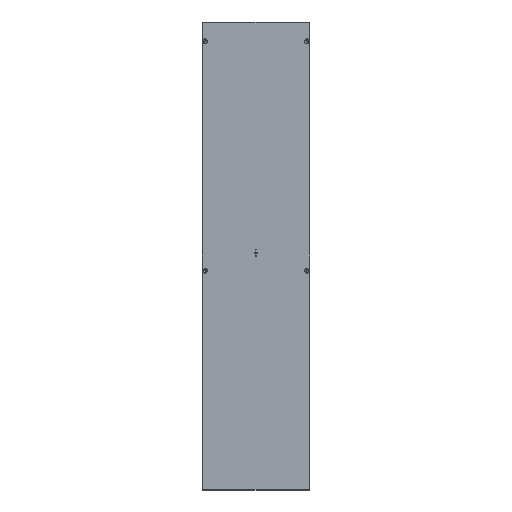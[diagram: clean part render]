
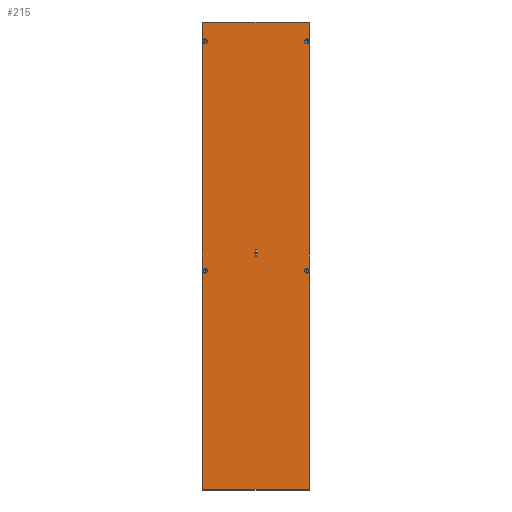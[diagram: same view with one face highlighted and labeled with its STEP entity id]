
A CAD part, front view. The second image highlights one B-rep face of the part: STEP entity #215.
In plain terms, the highlighted planar face has unit normal (0, -1, 0).
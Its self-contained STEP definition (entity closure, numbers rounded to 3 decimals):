
#215 = ADVANCED_FACE( '', ( #356, #357, #358, #359, #360 ), #361, .T. );
#356 = FACE_BOUND( '', #712, .T. );
#357 = FACE_BOUND( '', #713, .T. );
#358 = FACE_OUTER_BOUND( '', #714, .T. );
#359 = FACE_BOUND( '', #715, .T. );
#360 = FACE_BOUND( '', #716, .T. );
#361 = PLANE( '', #717 );
#712 = EDGE_LOOP( '', ( #1078 ) );
#713 = EDGE_LOOP( '', ( #1079 ) );
#714 = EDGE_LOOP( '', ( #1080, #1081, #1082, #1083 ) );
#715 = EDGE_LOOP( '', ( #1084 ) );
#716 = EDGE_LOOP( '', ( #1085 ) );
#717 = AXIS2_PLACEMENT_3D( '', #1086, #1087, #1088 );
#1078 = ORIENTED_EDGE( '', *, *, #1410, .T. );
#1079 = ORIENTED_EDGE( '', *, *, #1411, .T. );
#1080 = ORIENTED_EDGE( '', *, *, #1341, .T. );
#1081 = ORIENTED_EDGE( '', *, *, #1359, .F. );
#1082 = ORIENTED_EDGE( '', *, *, #1376, .F. );
#1083 = ORIENTED_EDGE( '', *, *, #1395, .F. );
#1084 = ORIENTED_EDGE( '', *, *, #1412, .T. );
#1085 = ORIENTED_EDGE( '', *, *, #1413, .T. );
#1086 = CARTESIAN_POINT( '', ( -203.987, 0., -888.206 ) );
#1087 = DIRECTION( '', ( 0., -1., 0. ) );
#1088 = DIRECTION( '', ( 0., 0., -1. ) );
#1341 = EDGE_CURVE( '', #1514, #1512, #1515, .T. );
#1359 = EDGE_CURVE( '', #1541, #1512, #1543, .T. );
#1376 = EDGE_CURVE( '', #1566, #1541, #1568, .T. );
#1395 = EDGE_CURVE( '', #1514, #1566, #1597, .T. );
#1410 = EDGE_CURVE( '', #1619, #1619, #1620, .F. );
#1411 = EDGE_CURVE( '', #1621, #1621, #1622, .F. );
#1412 = EDGE_CURVE( '', #1623, #1623, #1624, .F. );
#1413 = EDGE_CURVE( '', #1625, #1625, #1626, .F. );
#1512 = VERTEX_POINT( '', #1758 );
#1514 = VERTEX_POINT( '', #1769 );
#1515 = LINE( '', #1770, #1771 );
#1541 = VERTEX_POINT( '', #1836 );
#1543 = LINE( '', #1847, #1848 );
#1566 = VERTEX_POINT( '', #1910 );
#1568 = LINE( '', #1921, #1922 );
#1597 = LINE( '', #1998, #1999 );
#1619 = VERTEX_POINT( '', #2059 );
#1620 = CIRCLE( '', #2060, 8.87 );
#1621 = VERTEX_POINT( '', #2061 );
#1622 = CIRCLE( '', #2062, 8.87 );
#1623 = VERTEX_POINT( '', #2063 );
#1624 = CIRCLE( '', #2064, 8.87 );
#1625 = VERTEX_POINT( '', #2065 );
#1626 = CIRCLE( '', #2066, 8.87 );
#1758 = CARTESIAN_POINT( '', ( -201.803, 0., 886.022 ) );
#1769 = CARTESIAN_POINT( '', ( 201.803, 0., 886.022 ) );
#1770 = CARTESIAN_POINT( '', ( 201.803, 0., 886.022 ) );
#1771 = VECTOR( '', #2197, 1000. );
#1836 = CARTESIAN_POINT( '', ( -201.803, 0., -886.022 ) );
#1847 = CARTESIAN_POINT( '', ( -201.803, 0., -886.022 ) );
#1848 = VECTOR( '', #2213, 1000. );
#1910 = CARTESIAN_POINT( '', ( 201.803, 0., -886.022 ) );
#1921 = CARTESIAN_POINT( '', ( 201.803, 0., -886.022 ) );
#1922 = VECTOR( '', #2226, 1000. );
#1998 = CARTESIAN_POINT( '', ( 201.803, 0., 886.022 ) );
#1999 = VECTOR( '', #2247, 1000. );
#2059 = CARTESIAN_POINT( '', ( -192.881, 0., -65.162 ) );
#2060 = AXIS2_PLACEMENT_3D( '', #2259, #2260, #2261 );
#2061 = CARTESIAN_POINT( '', ( -192.881, 0., 806.362 ) );
#2062 = AXIS2_PLACEMENT_3D( '', #2262, #2263, #2264 );
#2063 = CARTESIAN_POINT( '', ( 192.881, 0., 806.362 ) );
#2064 = AXIS2_PLACEMENT_3D( '', #2265, #2266, #2267 );
#2065 = CARTESIAN_POINT( '', ( 192.881, 0., -65.162 ) );
#2066 = AXIS2_PLACEMENT_3D( '', #2268, #2269, #2270 );
#2197 = DIRECTION( '', ( -1., 0., 0. ) );
#2213 = DIRECTION( '', ( 0., 0., 1. ) );
#2226 = DIRECTION( '', ( -1., 0., 0. ) );
#2247 = DIRECTION( '', ( 0., 0., -1. ) );
#2259 = CARTESIAN_POINT( '', ( -192.881, 0., -56.293 ) );
#2260 = DIRECTION( '', ( 0., -1., 0. ) );
#2261 = DIRECTION( '', ( 0., 0., -1. ) );
#2262 = CARTESIAN_POINT( '', ( -192.881, 0., 815.232 ) );
#2263 = DIRECTION( '', ( 0., -1., 0. ) );
#2264 = DIRECTION( '', ( 0., 0., -1. ) );
#2265 = CARTESIAN_POINT( '', ( 192.881, 0., 815.232 ) );
#2266 = DIRECTION( '', ( 0., -1., 0. ) );
#2267 = DIRECTION( '', ( 0., 0., -1. ) );
#2268 = CARTESIAN_POINT( '', ( 192.881, 0., -56.293 ) );
#2269 = DIRECTION( '', ( 0., -1., 0. ) );
#2270 = DIRECTION( '', ( 0., 0., -1. ) );
